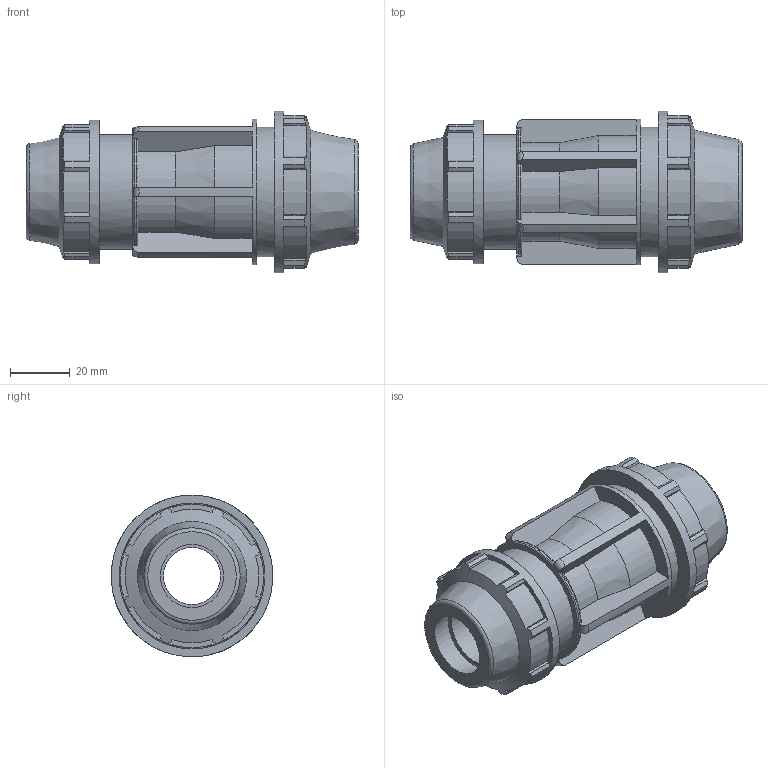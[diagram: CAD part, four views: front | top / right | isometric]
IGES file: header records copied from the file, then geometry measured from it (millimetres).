
Global section: file name: 0711M0007005.ipt; native system: Autodesk Inventor 2019; preprocessor: unknown; author: KIM; date: 20210826.124652; units: inch
Bounding box: 111 x 54.1 x 54.1 mm (x, y, z)
Volume: 94323.4 mm3; surface area: 31536.7 mm2
Topology: 1 solids, 1 shells, 189 faces, 553 edges, 374 vertices
Faces by surface type: plane 114, cylinder 45, revolution 20, cone 10
Full cylindrical faces by diameter (mm): 38.405 x1, 43.282 x1, 48.006 x1, 48.692 x1, 54.102 x1
